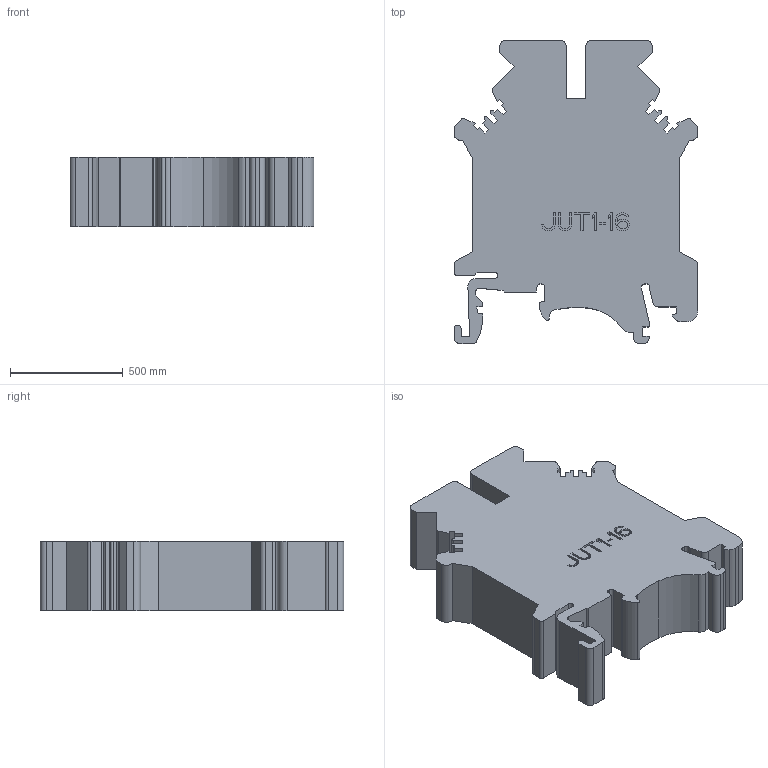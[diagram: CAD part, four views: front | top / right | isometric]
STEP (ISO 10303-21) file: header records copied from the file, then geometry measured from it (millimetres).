
FILE_DESCRIPTION((''),'2;1');
FILE_NAME('PRT0001','2022-04-18T',('Administrator'),(''),'PRO/ENGINEER BY PARAMETRIC TECHNOLOGY CORPORATION, 2008020','PRO/ENGINEER BY PARAMETRIC TECHNOLOGY CORPORATION, 2008020','');
FILE_SCHEMA(('CONFIG_CONTROL_DESIGN'));
Length unit declared in the file: inch
Products named in the file (1): PRT0001
Bounding box: 1079.5 x 1343.66 x 309.88 mm (x, y, z)
Volume: 305392714.2 mm3; surface area: 4818049.6 mm2
Topology: 1 solids, 1 shells, 304 faces, 876 edges, 584 vertices
Faces by surface type: plane 256, cylinder 48
Entity records: 9896 total; most frequent: CARTESIAN_POINT 1764, ORIENTED_EDGE 1752, DIRECTION 1580, EDGE_CURVE 876, VECTOR 780, LINE 780, VERTEX_POINT 584, AXIS2_PLACEMENT_3D 400
